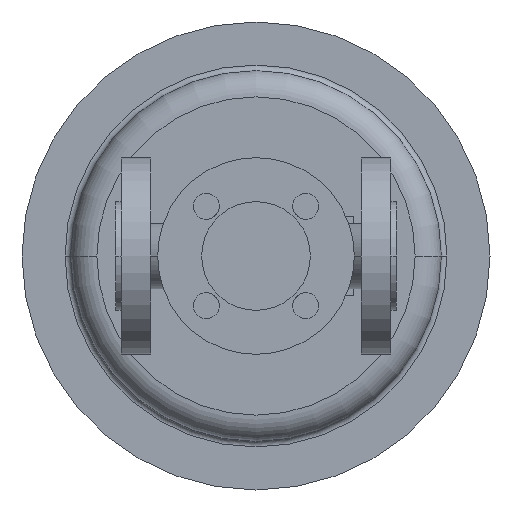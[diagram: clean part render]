
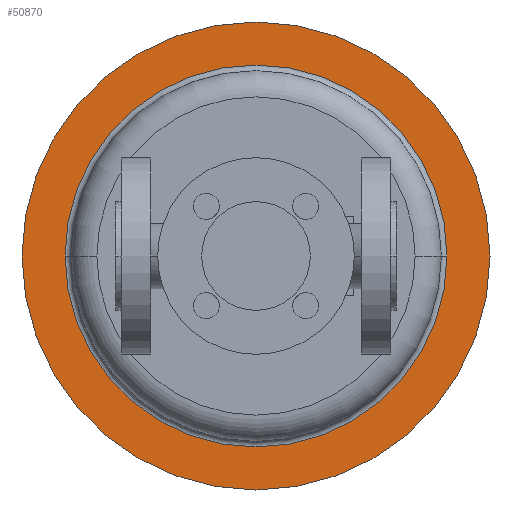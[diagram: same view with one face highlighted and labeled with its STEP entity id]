
A CAD part, front view. The second image highlights one B-rep face of the part: STEP entity #50870.
In plain terms, the highlighted planar face has unit normal (0, -1, 0).
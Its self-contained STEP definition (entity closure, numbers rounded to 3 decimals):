
#36250=CARTESIAN_POINT('',(-50.,383.,0.));
#36260=VERTEX_POINT('',#36250);
#36420=CARTESIAN_POINT('',(200.,383.,0.));
#36430=VERTEX_POINT('',#36420);
#36460=CARTESIAN_POINT('',(75.,383.,0.));
#36470=DIRECTION('',(0.,1.,0.));
#36480=DIRECTION('',(1.,0.,0.));
#36490=AXIS2_PLACEMENT_3D('',#36460,#36470,#36480);
#36500=CIRCLE('',#36490,125.);
#36510=EDGE_CURVE('',#36260,#36430,#36500,.T.);
#36610=CARTESIAN_POINT('',(75.,383.,0.));
#36620=DIRECTION('',(0.,1.,0.));
#36630=DIRECTION('',(1.,0.,0.));
#36640=AXIS2_PLACEMENT_3D('',#36610,#36620,#36630);
#36650=CIRCLE('',#36640,102.);
#36660=CARTESIAN_POINT('',(75.,383.,-102.));
#36670=VERTEX_POINT('',#36660);
#36680=CARTESIAN_POINT('',(-27.,383.,0.));
#36690=VERTEX_POINT('',#36680);
#36700=EDGE_CURVE('',#36670,#36690,#36650,.T.);
#36950=CARTESIAN_POINT('',(177.,383.,0.));
#36960=VERTEX_POINT('',#36950);
#36990=EDGE_CURVE('',#36960,#36670,#36650,.T.);
#50710=CARTESIAN_POINT('',(188.5,383.,0.));
#50720=DIRECTION('',(0.,-1.,0.));
#50730=DIRECTION('',(-1.,0.,0.));
#50740=AXIS2_PLACEMENT_3D('',#50710,#50720,#50730);
#50750=PLANE('',#50740);
#50760=EDGE_CURVE('',#36430,#36260,#36500,.T.);
#50770=ORIENTED_EDGE('',*,*,#50760,.F.);
#50780=ORIENTED_EDGE('',*,*,#36510,.F.);
#50790=EDGE_LOOP('',(#50780,#50770));
#50800=FACE_OUTER_BOUND('',#50790,.T.);
#50810=EDGE_CURVE('',#36690,#36960,#36650,.T.);
#50820=ORIENTED_EDGE('',*,*,#50810,.T.);
#50830=ORIENTED_EDGE('',*,*,#36700,.T.);
#50840=ORIENTED_EDGE('',*,*,#36990,.T.);
#50850=EDGE_LOOP('',(#50840,#50830,#50820));
#50860=FACE_BOUND('',#50850,.T.);
#50870=ADVANCED_FACE('',(#50800,#50860),#50750,.T.);
